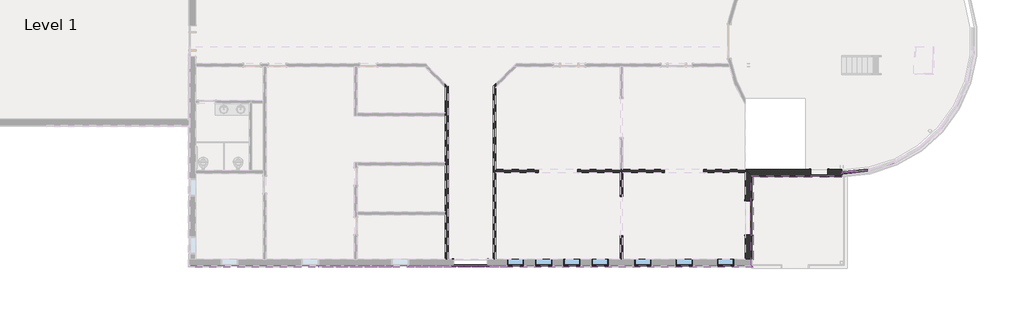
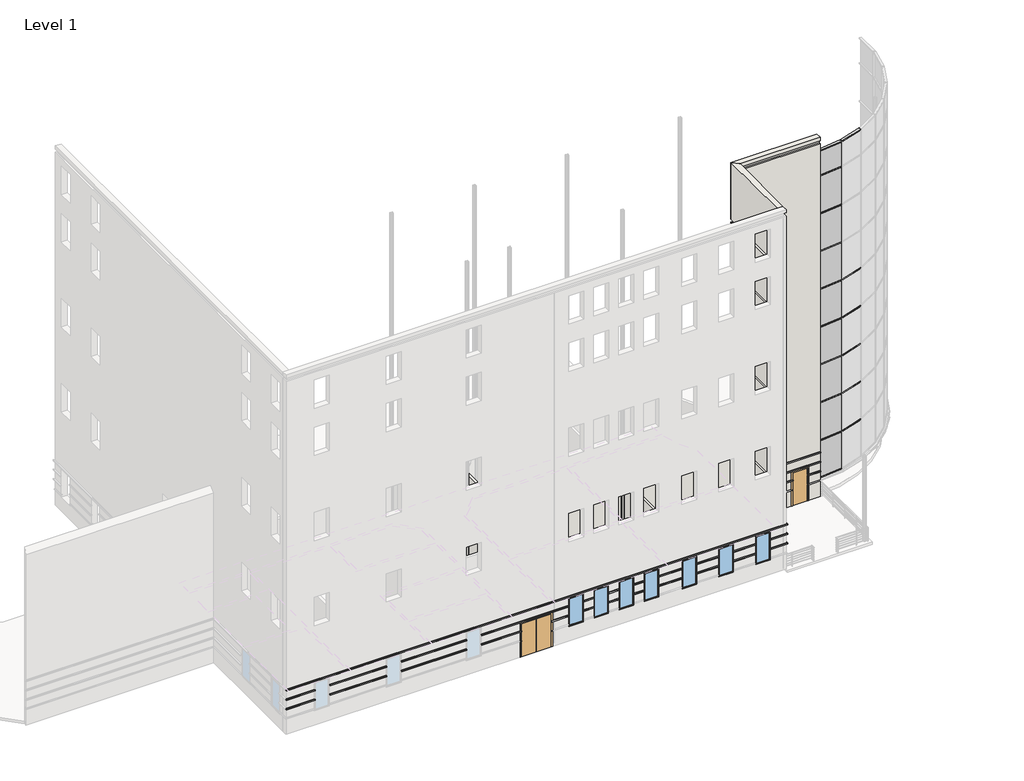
# One storey, part 3 of 16: 25 members, 9 plates, 9 proxies, 7 windows, 6 walls, 3 doors.
"""IFC4 building model written with IfcOpenShell, lengths in millimetres."""

from ifc_helpers import new_model, si_unit, frame, origin, place, context, project, spatial, polyline, outline, extrude, faceted_brep, transform, mapped, element, save
from components import door_1883fffc, door_632be17d, member_ab48d357, member_45463520, member_165ff730, member_1666ebf7, member_5575938c, member_ee409385, member_4f99afef, system_panel_glazed_2e30f1c6, system_panel_glazed_6bd74036, system_panel_glazed_8bc432e9, window_9c0dbd08

model = new_model("IFC4")

# Units and contexts
model_context = context("Model", 3, world=origin())
ifc_project = project(units=[si_unit("LENGTHUNIT", "METRE", prefix="MILLI")], contexts=[model_context])

# Site, building, storey
site = spatial("IfcSite", under=ifc_project)
building = spatial("IfcBuilding", under=site)
storey = spatial("IfcBuildingStorey", under=building, Name="Level 1", Elevation=0.0)

# Proxies
placement = place(None, origin())
element("IfcBuildingElementProxy", 1, Name="Reveals", at=placement, inside=storey, context=model_context, shape_type="SweptSolid", body=[
    extrude(outline(polyline([(-18533.512755, -6737.5012891), (-18533.512755, -6829.5762891), (-20324.212755, -6829.5762891), (-20232.137755, -6737.5012891), (-18533.512755, -6737.5012891)])), frame((0.0, 0.0, 1625.6), z_axis=(0.0, 0.0, 1.0), x_axis=(1.0, 0.0, 0.0)), (0.0, 0.0, 1.0), 67.7333333),
    extrude(outline(polyline([(-14163.125255, -6737.5012891), (-14163.125255, -6829.5762891), (-17619.112755, -6829.5762891), (-17619.112755, -6737.5012891), (-14163.125255, -6737.5012891)])), frame((0.0, 0.0, 1625.6), z_axis=(0.0, 0.0, 1.0), x_axis=(1.0, 0.0, 0.0)), (0.0, 0.0, 1.0), 67.7333333),
    extrude(outline(polyline([(-9286.325255, -6737.5012891), (-9286.325255, -6829.5762891), (-13248.725255, -6829.5762891), (-13248.725255, -6737.5012891), (-9286.325255, -6737.5012891)])), frame((0.0, 0.0, 1625.6), z_axis=(0.0, 0.0, 1.0), x_axis=(1.0, 0.0, 0.0)), (0.0, 0.0, 1.0), 67.7333333),
    extrude(outline(polyline([(-5931.937755, -6737.5012891), (-5931.937755, -6829.5762891), (-8371.925255, -6829.5762891), (-8371.925255, -6737.5012891), (-5931.937755, -6737.5012891)])), frame((0.0, 0.0, 1625.6), z_axis=(0.0, 0.0, 1.0), x_axis=(1.0, 0.0, 0.0)), (0.0, 0.0, 1.0), 67.7333333),
    extrude(outline(polyline([(-3037.925255, -6737.5012891), (-3037.925255, -6829.5762891), (-4103.137755, -6829.5762891), (-4103.137755, -6737.5012891), (-3037.925255, -6737.5012891)])), frame((0.0, 0.0, 1625.6), z_axis=(0.0, 0.0, 1.0), x_axis=(1.0, 0.0, 0.0)), (0.0, 0.0, 1.0), 67.7333333),
    extrude(outline(polyline([(-1509.162755, -6737.5012891), (-1509.162755, -6829.5762891), (-2123.525255, -6829.5762891), (-2123.525255, -6737.5012891), (-1509.162755, -6737.5012891)])), frame((0.0, 0.0, 1625.6), z_axis=(0.0, 0.0, 1.0), x_axis=(1.0, 0.0, 0.0)), (0.0, 0.0, 1.0), 67.7333333),
    extrude(outline(polyline([(19.599745, -6737.5012891), (19.599745, -6829.5762891), (-594.762755, -6829.5762891), (-594.762755, -6737.5012891), (19.599745, -6737.5012891)])), frame((0.0, 0.0, 1625.6), z_axis=(0.0, 0.0, 1.0), x_axis=(1.0, 0.0, 0.0)), (0.0, 0.0, 1.0), 67.7333333),
    extrude(outline(polyline([(1548.362245, -6737.5012891), (1548.362245, -6829.5762891), (933.999745, -6829.5762891), (933.999745, -6737.5012891), (1548.362245, -6737.5012891)])), frame((0.0, 0.0, 1625.6), z_axis=(0.0, 0.0, 1.0), x_axis=(1.0, 0.0, 0.0)), (0.0, 0.0, 1.0), 67.7333333),
    extrude(outline(polyline([(3864.524745, -6737.5012891), (3864.524745, -6829.5762891), (2462.762245, -6829.5762891), (2462.762245, -6737.5012891), (3864.524745, -6737.5012891)])), frame((0.0, 0.0, 1625.6), z_axis=(0.0, 0.0, 1.0), x_axis=(1.0, 0.0, 0.0)), (0.0, 0.0, 1.0), 67.7333333),
    extrude(outline(polyline([(6105.280995, -6737.5012891), (6105.280995, -6829.5762891), (4778.924745, -6829.5762891), (4778.924745, -6737.5012891), (6105.280995, -6737.5012891)])), frame((0.0, 0.0, 1625.6), z_axis=(0.0, 0.0, 1.0), x_axis=(1.0, 0.0, 0.0)), (0.0, 0.0, 1.0), 67.7333333),
    extrude(outline(polyline([(8346.037245, -6737.5012891), (8346.037245, -6829.5762891), (7019.680995, -6829.5762891), (7019.680995, -6737.5012891), (8346.037245, -6737.5012891)])), frame((0.0, 0.0, 1625.6), z_axis=(0.0, 0.0, 1.0), x_axis=(1.0, 0.0, 0.0)), (0.0, 0.0, 1.0), 67.7333333),
    extrude(outline(polyline([(10197.062245, -6737.5012891), (10289.137245, -6829.5762891), (9260.437245, -6829.5762891), (9260.437245, -6737.5012891), (10197.062245, -6737.5012891)])), frame((0.0, 0.0, 1625.6), z_axis=(0.0, 0.0, 1.0), x_axis=(1.0, 0.0, 0.0)), (0.0, 0.0, 1.0), 67.7333333),
])
element("IfcBuildingElementProxy", 2, Name="Reveals", at=placement, inside=storey, context=model_context, shape_type="SweptSolid", body=[
    extrude(outline(polyline([(-18533.512755, -6737.5012891), (-18533.512755, -6829.5762891), (-20324.212755, -6829.5762891), (-20232.137755, -6737.5012891), (-18533.512755, -6737.5012891)])), frame((0.0, 0.0, 2235.2), z_axis=(0.0, 0.0, 1.0), x_axis=(1.0, 0.0, 0.0)), (0.0, 0.0, 1.0), 67.7333333),
    extrude(outline(polyline([(-14163.125255, -6737.5012891), (-14163.125255, -6829.5762891), (-17619.112755, -6829.5762891), (-17619.112755, -6737.5012891), (-14163.125255, -6737.5012891)])), frame((0.0, 0.0, 2235.2), z_axis=(0.0, 0.0, 1.0), x_axis=(1.0, 0.0, 0.0)), (0.0, 0.0, 1.0), 67.7333333),
    extrude(outline(polyline([(-9286.325255, -6737.5012891), (-9286.325255, -6829.5762891), (-13248.725255, -6829.5762891), (-13248.725255, -6737.5012891), (-9286.325255, -6737.5012891)])), frame((0.0, 0.0, 2235.2), z_axis=(0.0, 0.0, 1.0), x_axis=(1.0, 0.0, 0.0)), (0.0, 0.0, 1.0), 67.7333333),
    extrude(outline(polyline([(-3037.925255, -6737.5012891), (-3037.925255, -6829.5762891), (-8371.925255, -6829.5762891), (-8371.925255, -6737.5012891), (-3037.925255, -6737.5012891)])), frame((0.0, 0.0, 2235.2), z_axis=(0.0, 0.0, 1.0), x_axis=(1.0, 0.0, 0.0)), (0.0, 0.0, 1.0), 67.7333333),
    extrude(outline(polyline([(-1509.162755, -6737.5012891), (-1509.162755, -6829.5762891), (-2123.525255, -6829.5762891), (-2123.525255, -6737.5012891), (-1509.162755, -6737.5012891)])), frame((0.0, 0.0, 2235.2), z_axis=(0.0, 0.0, 1.0), x_axis=(1.0, 0.0, 0.0)), (0.0, 0.0, 1.0), 67.7333333),
    extrude(outline(polyline([(19.599745, -6737.5012891), (19.599745, -6829.5762891), (-594.762755, -6829.5762891), (-594.762755, -6737.5012891), (19.599745, -6737.5012891)])), frame((0.0, 0.0, 2235.2), z_axis=(0.0, 0.0, 1.0), x_axis=(1.0, 0.0, 0.0)), (0.0, 0.0, 1.0), 67.7333333),
    extrude(outline(polyline([(1548.362245, -6737.5012891), (1548.362245, -6829.5762891), (933.999745, -6829.5762891), (933.999745, -6737.5012891), (1548.362245, -6737.5012891)])), frame((0.0, 0.0, 2235.2), z_axis=(0.0, 0.0, 1.0), x_axis=(1.0, 0.0, 0.0)), (0.0, 0.0, 1.0), 67.7333333),
    extrude(outline(polyline([(3864.524745, -6737.5012891), (3864.524745, -6829.5762891), (2462.762245, -6829.5762891), (2462.762245, -6737.5012891), (3864.524745, -6737.5012891)])), frame((0.0, 0.0, 2235.2), z_axis=(0.0, 0.0, 1.0), x_axis=(1.0, 0.0, 0.0)), (0.0, 0.0, 1.0), 67.7333333),
    extrude(outline(polyline([(6105.280995, -6737.5012891), (6105.280995, -6829.5762891), (4778.924745, -6829.5762891), (4778.924745, -6737.5012891), (6105.280995, -6737.5012891)])), frame((0.0, 0.0, 2235.2), z_axis=(0.0, 0.0, 1.0), x_axis=(1.0, 0.0, 0.0)), (0.0, 0.0, 1.0), 67.7333333),
    extrude(outline(polyline([(8346.037245, -6737.5012891), (8346.037245, -6829.5762891), (7019.680995, -6829.5762891), (7019.680995, -6737.5012891), (8346.037245, -6737.5012891)])), frame((0.0, 0.0, 2235.2), z_axis=(0.0, 0.0, 1.0), x_axis=(1.0, 0.0, 0.0)), (0.0, 0.0, 1.0), 67.7333333),
    extrude(outline(polyline([(10197.062245, -6737.5012891), (10289.137245, -6829.5762891), (9260.437245, -6829.5762891), (9260.437245, -6737.5012891), (10197.062245, -6737.5012891)])), frame((0.0, 0.0, 2235.2), z_axis=(0.0, 0.0, 1.0), x_axis=(1.0, 0.0, 0.0)), (0.0, 0.0, 1.0), 67.7333333),
])
element("IfcBuildingElementProxy", 3, Name="Reveals", at=placement, inside=storey, context=model_context, shape_type="SweptSolid", body=[
    extrude(outline(polyline([(10197.062245, -6737.5012891), (10289.137245, -6829.5762891), (-20324.212755, -6829.5762891), (-20232.137755, -6737.5012891), (10197.062245, -6737.5012891)])), frame((0.0, 0.0, 2844.8), z_axis=(0.0, 0.0, 1.0), x_axis=(1.0, 0.0, 0.0)), (0.0, 0.0, 1.0), 67.7333333),
])
element("IfcBuildingElementProxy", 4, Name="Reveals", at=placement, inside=storey, context=model_context, shape_type="SweptSolid", body=[
    extrude(outline(polyline([(10289.137245, -6829.5762891), (10197.062245, -6737.5012891), (10197.062245, -5062.6887891), (10289.137245, -5062.6887891), (10289.137245, -6829.5762891)])), frame((0.0, 0.0, 1625.6), z_axis=(0.0, 0.0, 1.0), x_axis=(1.0, 0.0, 0.0)), (0.0, 0.0, 1.0), 67.7333333),
    extrude(outline(polyline([(10289.137245, -3233.8887891), (10197.062245, -3233.8887891), (10197.062245, -1860.7012891), (10289.137245, -1952.7762891), (10289.137245, -3233.8887891)])), frame((0.0, 0.0, 1625.6), z_axis=(0.0, 0.0, 1.0), x_axis=(1.0, 0.0, 0.0)), (0.0, 0.0, 1.0), 67.7333333),
])
element("IfcBuildingElementProxy", 5, Name="Reveals", at=placement, inside=storey, context=model_context, shape_type="SweptSolid", body=[
    extrude(outline(polyline([(10289.137245, -6829.5762891), (10197.062245, -6737.5012891), (10197.062245, -1860.7012891), (10289.137245, -1952.7762891), (10289.137245, -6829.5762891)])), frame((0.0, 0.0, 2235.2), z_axis=(0.0, 0.0, 1.0), x_axis=(1.0, 0.0, 0.0)), (0.0, 0.0, 1.0), 67.7333333),
])
element("IfcBuildingElementProxy", 6, Name="Reveals", at=placement, inside=storey, context=model_context, shape_type="SweptSolid", body=[
    extrude(outline(polyline([(10289.137245, -6829.5762891), (10197.062245, -6737.5012891), (10197.062245, -1860.7012891), (10289.137245, -1952.7762891), (10289.137245, -6829.5762891)])), frame((0.0, 0.0, 2844.8), z_axis=(0.0, 0.0, 1.0), x_axis=(1.0, 0.0, 0.0)), (0.0, 0.0, 1.0), 67.7333333),
])
element("IfcBuildingElementProxy", 7, Name="Reveals", at=placement, inside=storey, context=model_context, shape_type="SweptSolid", body=[
    extrude(outline(polyline([(10289.137245, -1952.7762891), (10197.062245, -1860.7012891), (13416.512245, -1860.7012891), (13416.512245, -1952.7762891), (10289.137245, -1952.7762891)])), frame((0.0, 0.0, 1625.6), z_axis=(0.0, 0.0, 1.0), x_axis=(1.0, 0.0, 0.0)), (0.0, 0.0, 1.0), 67.7333333),
    extrude(outline(polyline([(14330.912245, -1952.7762891), (14330.912245, -1860.7012891), (15099.262245, -1860.7012891), (15099.262245, -1952.7762891), (14330.912245, -1952.7762891)])), frame((0.0, 0.0, 1625.6), z_axis=(0.0, 0.0, 1.0), x_axis=(1.0, 0.0, 0.0)), (0.0, 0.0, 1.0), 67.7333333),
])
element("IfcBuildingElementProxy", 8, Name="Reveals", at=placement, inside=storey, context=model_context, shape_type="SweptSolid", body=[
    extrude(outline(polyline([(10289.137245, -1952.7762891), (10197.062245, -1860.7012891), (15099.262245, -1860.7012891), (15099.262245, -1952.7762891), (10289.137245, -1952.7762891)])), frame((0.0, 0.0, 2235.2), z_axis=(0.0, 0.0, 1.0), x_axis=(1.0, 0.0, 0.0)), (0.0, 0.0, 1.0), 67.7333333),
])
element("IfcBuildingElementProxy", 9, Name="Reveals", at=placement, inside=storey, context=model_context, shape_type="SweptSolid", body=[
    extrude(outline(polyline([(10289.137245, -1952.7762891), (10197.062245, -1860.7012891), (15099.262245, -1860.7012891), (15099.262245, -1952.7762891), (10289.137245, -1952.7762891)])), frame((0.0, 0.0, 2844.8), z_axis=(0.0, 0.0, 1.0), x_axis=(1.0, 0.0, 0.0)), (0.0, 0.0, 1.0), 67.7333333),
])

# Doors
door_shape = door_1883fffc(model_context)
element("IfcDoor", 10, ObjectType="Double-Flush : 72\" x 84\"", at=placement, inside=storey, context=model_context, shape_type="MappedRepresentation", body=[
    mapped(door_shape, transform((10046.249745, -4148.2887891, 0.0), x_axis=(0.0, -1.0, 0.0), y_axis=(1.0, 0.0, 0.0), z_axis=(0.0, 0.0, 1.0))),
])
element("IfcDoor", 11, ObjectType="Double-Flush : 72\" x 84\"", at=placement, inside=storey, context=model_context, shape_type="MappedRepresentation", body=[
    mapped(door_shape, transform((-5017.537755, -6586.6887891, 0.0), x_axis=(-1.0, 0.0, 0.0), y_axis=(0.0, -1.0, 0.0), z_axis=(0.0, 0.0, 1.0))),
])
door_2_shape = door_632be17d(model_context)
element("IfcDoor", 12, ObjectType="Single-Flush : 36\" x 84\"", at=placement, inside=storey, context=model_context, shape_type="MappedRepresentation", body=[
    mapped(door_2_shape, transform((13873.712245, -1709.8887891, 0.0), x_axis=(-1.0, 0.0, 0.0), y_axis=(0.0, -1.0, 0.0), z_axis=(0.0, 0.0, 1.0))),
])

# Members
member_shape = member_ab48d357(model_context)
element("IfcMember", 13, ObjectType="Rectangular Mullion : 2.5\" x 5\" rectangular", at=placement, inside=storey, context=model_context, shape_type="MappedRepresentation", body=[
    mapped(member_shape, transform((15162.4143854, -1703.2512317, 22250.4), x_axis=(0.0, 0.0, 1.0), y_axis=(-0.1045284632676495, 0.9945218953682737, 0.0), z_axis=(-0.9945218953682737, -0.1045284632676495, 0.0))),
])
member_2_shape = member_45463520(model_context)
element("IfcMember", 14, ObjectType="Rectangular Mullion : 2.5\" x 5\" rectangular", at=placement, inside=storey, context=model_context, shape_type="MappedRepresentation", body=[
    mapped(member_2_shape, transform((16613.7372513, -1544.0734943, 22250.4), x_axis=(0.0, 0.0, 1.0), y_axis=(-0.30901699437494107, 0.9510565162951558, 0.0), z_axis=(-0.9510565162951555, -0.309016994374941, 0.0))),
])
member_3_shape = member_165ff730(model_context)
element("IfcMember", 15, ObjectType="Rectangular Mullion : 2.5\" x 5\" rectangular", at=placement, inside=storey, context=model_context, shape_type="MappedRepresentation", body=[
    mapped(member_3_shape, transform((16551.9651367, -1557.2035626, 1092.2), x_axis=(0.0, 0.0, -1.0), y_axis=(-0.1045284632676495, 0.9945218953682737, 0.0), z_axis=(0.9945218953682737, 0.1045284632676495, 0.0))),
])
member_4_shape = member_1666ebf7(model_context)
element("IfcMember", 16, ObjectType="Rectangular Mullion : 2.5\" x 5\" rectangular", at=placement, inside=storey, context=model_context, shape_type="MappedRepresentation", body=[
    mapped(member_4_shape, transform((16613.7372513, -1544.0734943, 3530.6), x_axis=(0.0, 0.0, 1.0), y_axis=(-0.30901699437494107, 0.9510565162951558, 0.0), z_axis=(-0.9510565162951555, -0.309016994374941, 0.0))),
])
element("IfcMember", 17, ObjectType="Rectangular Mullion : 2.5\" x 5\" rectangular", at=placement, inside=storey, context=model_context, shape_type="MappedRepresentation", body=[
    mapped(member_4_shape, transform((16613.7372513, -1544.0734943, 5969.0), x_axis=(0.0, 0.0, 1.0), y_axis=(-0.30901699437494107, 0.9510565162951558, 0.0), z_axis=(-0.9510565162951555, -0.309016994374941, 0.0))),
])
element("IfcMember", 18, ObjectType="Rectangular Mullion : 2.5\" x 5\" rectangular", at=placement, inside=storey, context=model_context, shape_type="MappedRepresentation", body=[
    mapped(member_4_shape, transform((16613.7372513, -1544.0734943, 8407.4), x_axis=(0.0, 0.0, 1.0), y_axis=(-0.30901699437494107, 0.9510565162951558, 0.0), z_axis=(-0.9510565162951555, -0.309016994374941, 0.0))),
])
element("IfcMember", 19, ObjectType="Rectangular Mullion : 2.5\" x 5\" rectangular", at=placement, inside=storey, context=model_context, shape_type="MappedRepresentation", body=[
    mapped(member_4_shape, transform((16613.7372513, -1544.0734943, 10845.8), x_axis=(0.0, 0.0, 1.0), y_axis=(-0.30901699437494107, 0.9510565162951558, 0.0), z_axis=(-0.9510565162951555, -0.309016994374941, 0.0))),
])
element("IfcMember", 20, ObjectType="Rectangular Mullion : 2.5\" x 5\" rectangular", at=placement, inside=storey, context=model_context, shape_type="MappedRepresentation", body=[
    mapped(member_4_shape, transform((16613.7372513, -1544.0734943, 13284.2), x_axis=(0.0, 0.0, 1.0), y_axis=(-0.30901699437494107, 0.9510565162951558, 0.0), z_axis=(-0.9510565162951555, -0.309016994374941, 0.0))),
])
member_5_shape = member_5575938c(model_context)
element("IfcMember", 21, ObjectType="Rectangular Mullion : 2.5\" x 5\" rectangular", at=placement, inside=storey, context=model_context, shape_type="MappedRepresentation", body=[
    mapped(member_5_shape, transform((15162.4143854, -1703.2512317, 3530.6), x_axis=(0.0, 0.0, 1.0), y_axis=(-0.10452846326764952, 0.9945218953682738, 0.0), z_axis=(-0.9945218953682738, -0.10452846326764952, 0.0))),
])
element("IfcMember", 22, ObjectType="Rectangular Mullion : 2.5\" x 5\" rectangular", at=placement, inside=storey, context=model_context, shape_type="MappedRepresentation", body=[
    mapped(member_5_shape, transform((15162.4143854, -1703.2512317, 5969.0), x_axis=(0.0, 0.0, 1.0), y_axis=(-0.10452846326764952, 0.9945218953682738, 0.0), z_axis=(-0.9945218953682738, -0.10452846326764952, 0.0))),
])
element("IfcMember", 23, ObjectType="Rectangular Mullion : 2.5\" x 5\" rectangular", at=placement, inside=storey, context=model_context, shape_type="MappedRepresentation", body=[
    mapped(member_5_shape, transform((15162.4143854, -1703.2512317, 8407.4), x_axis=(0.0, 0.0, 1.0), y_axis=(-0.10452846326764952, 0.9945218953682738, 0.0), z_axis=(-0.9945218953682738, -0.10452846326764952, 0.0))),
])
element("IfcMember", 24, ObjectType="Rectangular Mullion : 2.5\" x 5\" rectangular", at=placement, inside=storey, context=model_context, shape_type="MappedRepresentation", body=[
    mapped(member_5_shape, transform((15162.4143854, -1703.2512317, 10845.8), x_axis=(0.0, 0.0, 1.0), y_axis=(-0.10452846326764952, 0.9945218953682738, 0.0), z_axis=(-0.9945218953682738, -0.10452846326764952, 0.0))),
])
element("IfcMember", 25, ObjectType="Rectangular Mullion : 2.5\" x 5\" rectangular", at=placement, inside=storey, context=model_context, shape_type="MappedRepresentation", body=[
    mapped(member_5_shape, transform((15162.4143854, -1703.2512317, 13284.2), x_axis=(0.0, 0.0, 1.0), y_axis=(-0.10452846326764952, 0.9945218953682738, 0.0), z_axis=(-0.9945218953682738, -0.10452846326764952, 0.0))),
])
element("IfcMember", 26, ObjectType="Rectangular Mullion : 2.5\" x 5\" rectangular", at=placement, inside=storey, context=model_context, shape_type="MappedRepresentation", body=[
    mapped(member_5_shape, transform((15162.4143854, -1703.2512317, 15722.6), x_axis=(0.0, 0.0, 1.0), y_axis=(-0.10452846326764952, 0.9945218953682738, 0.0), z_axis=(-0.9945218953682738, -0.10452846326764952, 0.0))),
])
element("IfcMember", 27, ObjectType="Rectangular Mullion : 2.5\" x 5\" rectangular", at=placement, inside=storey, context=model_context, shape_type="MappedRepresentation", body=[
    mapped(member_5_shape, transform((15162.4143854, -1703.2512317, 18161.0), x_axis=(0.0, 0.0, 1.0), y_axis=(-0.10452846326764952, 0.9945218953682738, 0.0), z_axis=(-0.9945218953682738, -0.10452846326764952, 0.0))),
])
element("IfcMember", 28, ObjectType="Rectangular Mullion : 2.5\" x 5\" rectangular", at=placement, inside=storey, context=model_context, shape_type="MappedRepresentation", body=[
    mapped(member_5_shape, transform((15162.4143854, -1703.2512317, 20599.4), x_axis=(0.0, 0.0, 1.0), y_axis=(-0.10452846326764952, 0.9945218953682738, 0.0), z_axis=(-0.9945218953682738, -0.10452846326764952, 0.0))),
])
member_6_shape = member_ee409385(model_context)
element("IfcMember", 29, ObjectType="Rectangular Mullion : 2.5\" x 5\" rectangular", at=placement, inside=storey, context=model_context, shape_type="MappedRepresentation", body=[
    mapped(member_6_shape, transform((15099.262245, -1709.8887891, 1092.2), x_axis=(-0.9945218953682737, -0.10452846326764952, 0.0), y_axis=(-0.10452846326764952, 0.9945218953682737, 0.0), z_axis=(0.0, 0.0, -1.0))),
])
element("IfcMember", 30, ObjectType="Rectangular Mullion : 2.5\" x 5\" rectangular", at=placement, inside=storey, context=model_context, shape_type="MappedRepresentation", body=[
    mapped(member_6_shape, transform((15099.262245, -1709.8887891, 3530.6), x_axis=(-0.9945218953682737, -0.1045284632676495, 0.0), y_axis=(-0.1045284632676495, 0.9945218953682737, 0.0), z_axis=(0.0, 0.0, -1.0))),
])
element("IfcMember", 31, ObjectType="Rectangular Mullion : 2.5\" x 5\" rectangular", at=placement, inside=storey, context=model_context, shape_type="MappedRepresentation", body=[
    mapped(member_6_shape, transform((15099.262245, -1709.8887891, 5969.0), x_axis=(-0.9945218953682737, -0.1045284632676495, 0.0), y_axis=(-0.1045284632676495, 0.9945218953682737, 0.0), z_axis=(0.0, 0.0, -1.0))),
])
element("IfcMember", 32, ObjectType="Rectangular Mullion : 2.5\" x 5\" rectangular", at=placement, inside=storey, context=model_context, shape_type="MappedRepresentation", body=[
    mapped(member_6_shape, transform((15099.262245, -1709.8887891, 8407.4), x_axis=(-0.9945218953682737, -0.1045284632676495, 0.0), y_axis=(-0.1045284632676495, 0.9945218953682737, 0.0), z_axis=(0.0, 0.0, -1.0))),
])
element("IfcMember", 33, ObjectType="Rectangular Mullion : 2.5\" x 5\" rectangular", at=placement, inside=storey, context=model_context, shape_type="MappedRepresentation", body=[
    mapped(member_6_shape, transform((15099.262245, -1709.8887891, 10845.8), x_axis=(-0.9945218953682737, -0.1045284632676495, 0.0), y_axis=(-0.1045284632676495, 0.9945218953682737, 0.0), z_axis=(0.0, 0.0, -1.0))),
])
element("IfcMember", 34, ObjectType="Rectangular Mullion : 2.5\" x 5\" rectangular", at=placement, inside=storey, context=model_context, shape_type="MappedRepresentation", body=[
    mapped(member_6_shape, transform((15099.262245, -1709.8887891, 13284.2), x_axis=(-0.9945218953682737, -0.1045284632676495, 0.0), y_axis=(-0.1045284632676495, 0.9945218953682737, 0.0), z_axis=(0.0, 0.0, -1.0))),
])
element("IfcMember", 35, ObjectType="Rectangular Mullion : 2.5\" x 5\" rectangular", at=placement, inside=storey, context=model_context, shape_type="MappedRepresentation", body=[
    mapped(member_6_shape, transform((15099.262245, -1709.8887891, 15722.6), x_axis=(-0.9945218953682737, -0.1045284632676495, 0.0), y_axis=(-0.1045284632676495, 0.9945218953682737, 0.0), z_axis=(0.0, 0.0, -1.0))),
])
element("IfcMember", 36, ObjectType="Rectangular Mullion : 2.5\" x 5\" rectangular", at=placement, inside=storey, context=model_context, shape_type="MappedRepresentation", body=[
    mapped(member_6_shape, transform((15099.262245, -1709.8887891, 18161.0), x_axis=(-0.9945218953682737, -0.1045284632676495, 0.0), y_axis=(-0.1045284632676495, 0.9945218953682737, 0.0), z_axis=(0.0, 0.0, -1.0))),
])
member_7_shape = member_4f99afef(model_context)
element("IfcMember", 37, ObjectType="Rectangular Mullion : 2.5\" x 5\" rectangular", at=placement, inside=storey, context=model_context, shape_type="MappedRepresentation", body=[
    mapped(member_7_shape, transform((15099.262245, -1709.8887891, 20599.4), x_axis=(-0.9945218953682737, -0.1045284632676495, 0.0), y_axis=(-0.1045284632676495, 0.9945218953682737, 0.0), z_axis=(0.0, 0.0, -1.0))),
])

# Plates
system_panel_glazed_shape = system_panel_glazed_2e30f1c6(model_context)
element("IfcPlate", 38, ObjectType="System Panel : Glazed", at=placement, inside=storey, context=model_context, shape_type="MappedRepresentation", body=[
    mapped(system_panel_glazed_shape, transform((15857.189761, -1630.2273971, 1155.7), x_axis=(-0.9945218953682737, -0.10452846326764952, 0.0), y_axis=(0.10452846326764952, -0.9945218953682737, 0.0), z_axis=(0.0, 0.0, 1.0))),
])
system_panel_glazed_2_shape = system_panel_glazed_6bd74036(model_context)
element("IfcPlate", 39, ObjectType="System Panel : Glazed", at=placement, inside=storey, context=model_context, shape_type="MappedRepresentation", body=[
    mapped(system_panel_glazed_2_shape, transform((15857.189761, -1630.2273971, 3562.35), x_axis=(-0.9945218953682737, -0.1045284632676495, 0.0), y_axis=(0.1045284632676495, -0.9945218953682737, 0.0), z_axis=(0.0, 0.0, 1.0))),
])
element("IfcPlate", 40, ObjectType="System Panel : Glazed", at=placement, inside=storey, context=model_context, shape_type="MappedRepresentation", body=[
    mapped(system_panel_glazed_2_shape, transform((15857.189761, -1630.2273971, 6000.75), x_axis=(-0.9945218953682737, -0.1045284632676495, 0.0), y_axis=(0.1045284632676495, -0.9945218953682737, 0.0), z_axis=(0.0, 0.0, 1.0))),
])
element("IfcPlate", 41, ObjectType="System Panel : Glazed", at=placement, inside=storey, context=model_context, shape_type="MappedRepresentation", body=[
    mapped(system_panel_glazed_2_shape, transform((15857.189761, -1630.2273971, 8439.15), x_axis=(-0.9945218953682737, -0.1045284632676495, 0.0), y_axis=(0.1045284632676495, -0.9945218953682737, 0.0), z_axis=(0.0, 0.0, 1.0))),
])
element("IfcPlate", 42, ObjectType="System Panel : Glazed", at=placement, inside=storey, context=model_context, shape_type="MappedRepresentation", body=[
    mapped(system_panel_glazed_2_shape, transform((15857.189761, -1630.2273971, 10877.55), x_axis=(-0.9945218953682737, -0.1045284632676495, 0.0), y_axis=(0.1045284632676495, -0.9945218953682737, 0.0), z_axis=(0.0, 0.0, 1.0))),
])
element("IfcPlate", 43, ObjectType="System Panel : Glazed", at=placement, inside=storey, context=model_context, shape_type="MappedRepresentation", body=[
    mapped(system_panel_glazed_2_shape, transform((15857.189761, -1630.2273971, 13315.95), x_axis=(-0.9945218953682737, -0.1045284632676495, 0.0), y_axis=(0.1045284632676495, -0.9945218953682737, 0.0), z_axis=(0.0, 0.0, 1.0))),
])
element("IfcPlate", 44, ObjectType="System Panel : Glazed", at=placement, inside=storey, context=model_context, shape_type="MappedRepresentation", body=[
    mapped(system_panel_glazed_2_shape, transform((15857.189761, -1630.2273971, 15754.35), x_axis=(-0.9945218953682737, -0.1045284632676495, 0.0), y_axis=(0.1045284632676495, -0.9945218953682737, 0.0), z_axis=(0.0, 0.0, 1.0))),
])
element("IfcPlate", 45, ObjectType="System Panel : Glazed", at=placement, inside=storey, context=model_context, shape_type="MappedRepresentation", body=[
    mapped(system_panel_glazed_2_shape, transform((15857.189761, -1630.2273971, 18192.75), x_axis=(-0.9945218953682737, -0.1045284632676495, 0.0), y_axis=(0.1045284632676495, -0.9945218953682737, 0.0), z_axis=(0.0, 0.0, 1.0))),
])
system_panel_glazed_3_shape = system_panel_glazed_8bc432e9(model_context)
element("IfcPlate", 46, ObjectType="System Panel : Glazed", at=placement, inside=storey, context=model_context, shape_type="MappedRepresentation", body=[
    mapped(system_panel_glazed_3_shape, transform((15857.189761, -1630.2273971, 20631.15), x_axis=(-0.9945218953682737, -0.1045284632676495, 0.0), y_axis=(0.1045284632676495, -0.9945218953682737, 0.0), z_axis=(0.0, 0.0, 1.0))),
])

# Walls
element("IfcWall", 47, ObjectType="Exterior - Brick and CMU on MTL. Stud", at=placement, inside=storey, context=model_context, shape_type="Brep", body=[
    faceted_brep([(10222.462245, -1886.1012891, 23164.8), (10222.462245, -6410.4762891, 23164.8), (10222.462245, -6410.4762891, 22961.6), (10222.462245, -1886.1012891, 22961.6), (10222.462245, -6410.4762891, 2302.9333333), (10222.462245, -1886.1012891, 2302.9333333), (10222.462245, -1886.1012891, 2844.8), (10222.462245, -6410.4762891, 2844.8), (10222.462245, -1886.1012891, 2235.2), (10222.462245, -6410.4762891, 2235.2), (10222.462245, -6410.4762891, 1693.3333333), (10222.462245, -5062.6887891, 1693.3333333), (10222.462245, -5062.6887891, 2133.6), (10222.462245, -3233.8887891, 2133.6), (10222.462245, -3233.8887891, 1693.3333333), (10222.462245, -1886.1012891, 1693.3333333), (10222.462245, -6410.4762891, 2912.5333333), (10222.462245, -1886.1012891, 2912.5333333), (10222.462245, -1886.1012891, 22758.4), (10222.462245, -6410.4762891, 22758.4), (10222.462245, -6410.4762891, 0.0), (10222.462245, -5062.6887891, 0.0), (10222.462245, -5062.6887891, 1016.0), (10222.462245, -6410.4762891, 1016.0), (10222.462245, -3233.8887891, 0.0), (10222.462245, -1886.1012891, 0.0), (10222.462245, -1886.1012891, 1016.0), (10222.462245, -3233.8887891, 1016.0), (10222.462245, -1886.1012891, 1625.6), (10222.462245, -3233.8887891, 1625.6), (10222.462245, -3233.8887891, 1085.85), (10222.462245, -1886.1012891, 1085.85), (10222.462245, -5062.6887891, 1625.6), (10222.462245, -6410.4762891, 1625.6), (10222.462245, -6410.4762891, 1085.85), (10222.462245, -5062.6887891, 1085.85), (9870.037245, -6410.4762891, 23164.8), (9870.037245, -1533.6762891, 23164.8), (9870.037245, -1533.6762891, 19507.2), (9870.037245, -6410.4762891, 19507.2), (9870.037245, -5062.6887891, 0.0), (9870.037245, -6410.4762891, 0.0), (9870.037245, -6410.4762891, 5308.6), (9870.037245, -1689.2512891, 5308.6), (9870.037245, -1533.6762891, 5308.6), (9870.037245, -1533.6762891, 0.0), (9870.037245, -1689.2512891, 0.0), (9870.037245, -3233.8887891, 0.0), (9870.037245, -3233.8887891, 2133.6), (9870.037245, -5062.6887891, 2133.6), (9870.037245, -6410.4762891, 19329.4), (9870.037245, -1533.6762891, 19329.4), (9870.037245, -1533.6762891, 16459.2), (9870.037245, -6410.4762891, 16459.2), (9870.037245, -6410.4762891, 16281.4), (9870.037245, -1533.6762891, 16281.4), (9870.037245, -1533.6762891, 10972.8), (9870.037245, -6410.4762891, 10972.8), (9870.037245, -1533.6762891, 5486.4), (9870.037245, -6410.4762891, 5486.4), (9870.037245, -6410.4762891, 10795.0), (9870.037245, -1533.6762891, 10795.0), (10130.387245, -6410.4762891, 0.0), (10130.387245, -5062.6887891, 0.0), (10130.387245, -1794.0262891, 0.0), (10130.387245, -3233.8887891, 0.0), (10197.062245, -5062.6887891, 1693.3333333), (10197.062245, -6410.4762891, 1693.3333333), (10197.062245, -6410.4762891, 1625.6), (10197.062245, -5062.6887891, 1625.6), (10197.062245, -1860.7012891, 2302.9333333), (10197.062245, -6410.4762891, 2302.9333333), (10197.062245, -6410.4762891, 2235.2), (10197.062245, -1860.7012891, 2235.2), (10197.062245, -1860.7012891, 2912.5333333), (10197.062245, -6410.4762891, 2912.5333333), (10197.062245, -6410.4762891, 2844.8), (10197.062245, -1860.7012891, 2844.8), (10130.387245, -5062.6887891, 1085.85), (10130.387245, -6410.4762891, 1085.85), (10130.387245, -6410.4762891, 1016.0), (10130.387245, -5062.6887891, 1016.0), (10130.387245, -1794.0262891, 22961.6), (10130.387245, -6410.4762891, 22961.6), (10130.387245, -6410.4762891, 22758.4), (10130.387245, -1794.0262891, 22758.4), (10035.137245, -6410.4762891, 19507.2), (10035.137245, -6410.4762891, 19329.4), (10035.137245, -6410.4762891, 16459.2), (10035.137245, -6410.4762891, 16281.4), (10035.137245, -6410.4762891, 10972.8), (10035.137245, -6410.4762891, 10795.0), (10035.137245, -6410.4762891, 5486.4), (10035.137245, -6410.4762891, 5308.6), (10130.387245, -3233.8887891, 1016.0), (10130.387245, -3233.8887891, 1085.85), (10197.062245, -3233.8887891, 1625.6), (10197.062245, -3233.8887891, 1693.3333333), (10197.062245, -1860.7012891, 1693.3333333), (10197.062245, -1860.7012891, 1625.6), (10130.387245, -1794.0262891, 1085.85), (10130.387245, -1794.0262891, 1016.0), (10035.137245, -1698.7762891, 5308.6), (10035.137245, -1698.7762891, 5486.4), (10035.137245, -1698.7762891, 19329.4), (10035.137245, -1698.7762891, 19507.2), (10035.137245, -1698.7762891, 16281.4), (10035.137245, -1698.7762891, 16459.2), (10035.137245, -1698.7762891, 10795.0), (10035.137245, -1698.7762891, 10972.8)], [[[0, 1, 2, 3]], [[4, 5, 6, 7]], [[8, 9, 10, 11, 12, 13, 14, 15]], [[16, 17, 18, 19]], [[20, 21, 22, 23]], [[24, 25, 26, 27]], [[28, 29, 30, 31]], [[32, 33, 34, 35]], [[36, 37, 38, 39]], [[40, 41, 42, 43, 44, 45, 46, 47, 48, 49]], [[50, 51, 52, 53]], [[54, 55, 56, 57]], [[58, 59, 60, 61]], [[1, 0, 37, 36]], [[62, 41, 40, 63]], [[45, 64, 65, 47, 46]], [[66, 67, 68, 69]], [[70, 71, 72, 73]], [[74, 75, 76, 77]], [[78, 79, 80, 81]], [[82, 83, 84, 85]], [[71, 70, 5, 4]], [[73, 72, 9, 8]], [[75, 74, 17, 16]], [[77, 76, 7, 6]], [[85, 84, 19, 18]], [[83, 82, 3, 2]], [[20, 62, 63, 21]], [[64, 25, 24, 65]], [[1, 36, 39, 86, 87, 50, 53, 88, 89, 54, 57, 90, 91, 60, 59, 92, 93, 42, 41, 62, 20, 23, 80, 79, 34, 33, 68, 67, 10, 9, 72, 71, 4, 7, 76, 75, 16, 19, 84, 83, 2]], [[49, 12, 11, 66, 69, 32, 35, 78, 81, 22, 21, 63, 40]], [[12, 49, 48, 13]], [[13, 48, 47, 65, 24, 27, 94, 95, 30, 29, 96, 97, 14]], [[98, 97, 96, 99]], [[99, 96, 29, 28]], [[97, 98, 15, 14]], [[69, 68, 33, 32]], [[67, 66, 11, 10]], [[100, 95, 94, 101]], [[101, 94, 27, 26]], [[95, 100, 31, 30]], [[81, 80, 23, 22]], [[79, 78, 35, 34]], [[93, 102, 44, 43, 42]], [[102, 93, 92, 103]], [[87, 104, 51, 50]], [[105, 86, 39, 38]], [[104, 87, 86, 105]], [[89, 106, 55, 54]], [[107, 88, 53, 52]], [[106, 89, 88, 107]], [[91, 108, 61, 60]], [[109, 90, 57, 56]], [[108, 91, 90, 109]], [[103, 92, 59, 58]], [[37, 0, 3, 82, 85, 18, 17, 74, 77, 6, 5, 70, 73, 8, 15, 98, 99, 28, 31, 100, 101, 26, 25, 64, 45, 44, 102, 103, 58, 61, 108, 109, 56, 55, 106, 107, 52, 51, 104, 105, 38]]]),
])
element("IfcWall", 48, ObjectType="Exterior - Brick and CMU on MTL. Stud", at=placement, inside=storey, context=model_context, shape_type="Brep", body=[
    faceted_brep([(15099.262245, -1886.1012891, 23164.8), (10222.462245, -1886.1012891, 23164.8), (10222.462245, -1886.1012891, 22961.6), (15099.262245, -1886.1012891, 22961.6), (10222.462245, -1886.1012891, 2302.9333333), (15099.262245, -1886.1012891, 2302.9333333), (15099.262245, -1886.1012891, 2844.8), (10222.462245, -1886.1012891, 2844.8), (15099.262245, -1886.1012891, 2235.2), (10222.462245, -1886.1012891, 2235.2), (10222.462245, -1886.1012891, 1693.3333333), (13416.512245, -1886.1012891, 1693.3333333), (13416.512245, -1886.1012891, 2133.6), (14330.912245, -1886.1012891, 2133.6), (14330.912245, -1886.1012891, 1693.3333333), (15099.262245, -1886.1012891, 1693.3333333), (10222.462245, -1886.1012891, 2912.5333333), (15099.262245, -1886.1012891, 2912.5333333), (15099.262245, -1886.1012891, 22250.4), (15099.262245, -1886.1012891, 22758.4), (10222.462245, -1886.1012891, 22758.4), (10222.462245, -1886.1012891, 0.0), (13416.512245, -1886.1012891, 0.0), (13416.512245, -1886.1012891, 1016.0), (10222.462245, -1886.1012891, 1016.0), (14330.912245, -1886.1012891, 0.0), (15099.262245, -1886.1012891, 0.0), (15099.262245, -1886.1012891, 1016.0), (14330.912245, -1886.1012891, 1016.0), (15099.262245, -1886.1012891, 1625.6), (14330.912245, -1886.1012891, 1625.6), (14330.912245, -1886.1012891, 1085.85), (15099.262245, -1886.1012891, 1085.85), (15099.262245, -1886.1012891, 1092.2), (13416.512245, -1886.1012891, 1625.6), (10222.462245, -1886.1012891, 1625.6), (10222.462245, -1886.1012891, 1085.85), (13416.512245, -1886.1012891, 1085.85), (9870.037245, -1533.6762891, 23164.8), (15099.262245, -1533.6762891, 23164.8), (15099.262245, -1533.6762891, 22250.4), (15099.262245, -1533.6762891, 19507.2), (13111.712245, -1533.6762891, 19507.2), (9870.037245, -1533.6762891, 19507.2), (13416.512245, -1533.6762891, 0.0), (10063.712245, -1533.6762891, 0.0), (9870.037245, -1533.6762891, 0.0), (9870.037245, -1533.6762891, 5308.6), (13111.712245, -1533.6762891, 5308.6), (15099.262245, -1533.6762891, 5308.6), (15099.262245, -1533.6762891, 1092.2), (15099.262245, -1533.6762891, 0.0), (14330.912245, -1533.6762891, 0.0), (14330.912245, -1533.6762891, 2133.6), (13416.512245, -1533.6762891, 2133.6), (13111.712245, -1533.6762891, 19329.4), (15099.262245, -1533.6762891, 19329.4), (15099.262245, -1533.6762891, 16459.2), (13111.712245, -1533.6762891, 16459.2), (9870.037245, -1533.6762891, 16459.2), (9870.037245, -1533.6762891, 19329.4), (15099.262245, -1533.6762891, 5486.4), (13111.712245, -1533.6762891, 5486.4), (9870.037245, -1533.6762891, 5486.4), (9870.037245, -1533.6762891, 10795.0), (13111.712245, -1533.6762891, 10795.0), (15099.262245, -1533.6762891, 10795.0), (9870.037245, -1533.6762891, 16281.4), (13111.712245, -1533.6762891, 16281.4), (15099.262245, -1533.6762891, 16281.4), (15099.262245, -1533.6762891, 10972.8), (13111.712245, -1533.6762891, 10972.8), (9870.037245, -1533.6762891, 10972.8), (15099.262245, -1794.0262891, 22961.6), (15099.262245, -1794.0262891, 22758.4), (15099.262245, -1860.7012891, 2912.5333333), (15099.262245, -1860.7012891, 2844.8), (15099.262245, -1860.7012891, 2302.9333333), (15099.262245, -1860.7012891, 2235.2), (15099.262245, -1860.7012891, 1693.3333333), (15099.262245, -1860.7012891, 1625.6), (15099.262245, -1794.0262891, 1085.85), (15099.262245, -1794.0262891, 1016.0), (15099.262245, -1794.0262891, 0.0), (15099.262245, -1698.7762891, 5308.6), (15099.262245, -1698.7762891, 5486.4), (15099.262245, -1698.7762891, 10795.0), (15099.262245, -1698.7762891, 10972.8), (15099.262245, -1698.7762891, 16281.4), (15099.262245, -1698.7762891, 16459.2), (15099.262245, -1698.7762891, 19329.4), (15099.262245, -1698.7762891, 19507.2), (10130.387245, -1794.0262891, 0.0), (13416.512245, -1794.0262891, 0.0), (14330.912245, -1794.0262891, 0.0), (10197.062245, -1860.7012891, 1625.6), (13416.512245, -1860.7012891, 1625.6), (13416.512245, -1860.7012891, 1693.3333333), (10197.062245, -1860.7012891, 1693.3333333), (10197.062245, -1860.7012891, 2302.9333333), (10197.062245, -1860.7012891, 2235.2), (10197.062245, -1860.7012891, 2912.5333333), (10197.062245, -1860.7012891, 2844.8), (10130.387245, -1794.0262891, 1016.0), (13416.512245, -1794.0262891, 1016.0), (13416.512245, -1794.0262891, 1085.85), (10130.387245, -1794.0262891, 1085.85), (10130.387245, -1794.0262891, 22961.6), (10130.387245, -1794.0262891, 22758.4), (14330.912245, -1794.0262891, 1016.0), (14330.912245, -1794.0262891, 1085.85), (14330.912245, -1860.7012891, 1625.6), (14330.912245, -1860.7012891, 1693.3333333), (10035.137245, -1698.7762891, 5308.6), (10035.137245, -1698.7762891, 5486.4), (10035.137245, -1698.7762891, 19329.4), (10035.137245, -1698.7762891, 19507.2), (10035.137245, -1698.7762891, 16281.4), (10035.137245, -1698.7762891, 16459.2), (10035.137245, -1698.7762891, 10795.0), (10035.137245, -1698.7762891, 10972.8)], [[[0, 1, 2, 3]], [[4, 5, 6, 7]], [[8, 9, 10, 11, 12, 13, 14, 15]], [[16, 17, 18, 19, 20]], [[21, 22, 23, 24]], [[25, 26, 27, 28]], [[29, 30, 31, 32, 33]], [[34, 35, 36, 37]], [[38, 39, 40, 41, 42, 43]], [[44, 45, 46, 47, 48, 49, 50, 51, 52, 53, 54]], [[55, 56, 57, 58, 59, 60]], [[61, 62, 63, 64, 65, 66]], [[67, 68, 69, 70, 71, 72]], [[39, 0, 3, 73, 74, 19, 18, 17, 75, 76, 6, 5, 77, 78, 8, 15, 79, 80, 29, 33, 32, 81, 82, 27, 26, 83, 51, 50, 49, 84, 85, 61, 66, 86, 87, 70, 69, 88, 89, 57, 56, 90, 91, 41, 40]], [[1, 0, 39, 38]], [[92, 46, 45, 44, 93]], [[51, 83, 94, 52]], [[95, 96, 97, 98]], [[78, 77, 99, 100]], [[76, 75, 101, 102]], [[103, 104, 105, 106]], [[74, 73, 107, 108]], [[77, 5, 4, 99]], [[8, 78, 100, 9]], [[75, 17, 16, 101]], [[6, 76, 102, 7]], [[19, 74, 108, 20]], [[73, 3, 2, 107]], [[21, 92, 93, 22]], [[83, 26, 25, 94]], [[54, 12, 11, 97, 96, 34, 37, 105, 104, 23, 22, 93, 44]], [[12, 54, 53, 13]], [[13, 53, 52, 94, 25, 28, 109, 110, 31, 30, 111, 112, 14]], [[79, 112, 111, 80]], [[80, 111, 30, 29]], [[112, 79, 15, 14]], [[96, 95, 35, 34]], [[98, 97, 11, 10]], [[81, 110, 109, 82]], [[82, 109, 28, 27]], [[110, 81, 32, 31]], [[104, 103, 24, 23]], [[106, 105, 37, 36]], [[113, 84, 49, 48, 47]], [[84, 113, 114, 85]], [[115, 90, 56, 55, 60]], [[91, 116, 43, 42, 41]], [[90, 115, 116, 91]], [[117, 88, 69, 68, 67]], [[89, 118, 59, 58, 57]], [[88, 117, 118, 89]], [[119, 86, 66, 65, 64]], [[87, 120, 72, 71, 70]], [[86, 119, 120, 87]], [[85, 114, 63, 62, 61]], [[1, 38, 43, 116, 115, 60, 59, 118, 117, 67, 72, 120, 119, 64, 63, 114, 113, 47, 46, 92, 21, 24, 103, 106, 36, 35, 95, 98, 10, 9, 100, 99, 4, 7, 102, 101, 16, 20, 108, 107, 2]]]),
])
element("IfcWall", 49, ObjectType="Interior - 6 1/8\" Partition (2-hr)", at=placement, inside=storey, context=model_context, shape_type="Brep", body=[
    faceted_brep([(-6236.737755, -6410.4762891, 0.0), (-6236.737755, 2990.6987109, 0.0), (-6236.737755, 2990.6987109, 5308.6), (-6236.737755, -6410.4762891, 5308.6), (-6392.312755, -6410.4762891, 0.0), (-6392.312755, -6410.4762891, 5308.6), (-6392.312755, -3984.7762891, 5308.6), (-6392.312755, -3829.2012891, 5308.6), (-6392.312755, -1305.0762891, 5308.6), (-6392.312755, -1149.5012891, 5308.6), (-6392.312755, 1374.6237109, 5308.6), (-6392.312755, 1530.1987109, 5308.6), (-6392.312755, 2926.2574359, 5308.6), (-6392.312755, 3146.2737109, 5308.6), (-6392.312755, 3146.2737109, 0.0), (-6392.312755, 2926.2574359, 0.0), (-6392.312755, 1530.1987109, 0.0), (-6392.312755, 1374.6237109, 0.0), (-6392.312755, -1149.5012891, 0.0), (-6392.312755, -1305.0762891, 0.0), (-6392.312755, -3829.2012891, 0.0), (-6392.312755, -3984.7762891, 0.0)], [[[0, 1, 2, 3]], [[4, 5, 6, 7, 8, 9, 10, 11, 12, 13, 14, 15, 16, 17, 18, 19, 20, 21]], [[1, 0, 4, 21, 20, 19, 18, 17, 16, 15, 14]], [[0, 3, 5, 4]], [[2, 1, 14, 13]], [[3, 2, 13, 12, 11, 10, 9, 8, 7, 6, 5]]]),
])
element("IfcWall", 50, ObjectType="Interior - 6 1/8\" Partition (2-hr)", at=placement, inside=storey, context=model_context, shape_type="Brep", body=[
    faceted_brep([(-3798.337755, 2990.6987109, 0.0), (-3798.337755, -6410.4762891, 0.0), (-3798.337755, -6410.4762891, 5308.6), (-3798.337755, 2990.6987109, 5308.6), (-3642.762755, 3146.2737109, 0.0), (-3642.762755, 3146.2737109, 5308.6), (-3642.762755, 2926.2574359, 5308.6), (-3642.762755, -1533.6762891, 5308.6), (-3642.762755, -1689.2512891, 5308.6), (-3642.762755, -6410.4762891, 5308.6), (-3642.762755, -6410.4762891, 0.0), (-3642.762755, -1689.2512891, 0.0), (-3642.762755, -1533.6762891, 0.0), (-3642.762755, 2926.2574359, 0.0)], [[[0, 1, 2, 3]], [[4, 5, 6, 7, 8, 9, 10, 11, 12, 13]], [[1, 0, 4, 13, 12, 11, 10]], [[2, 1, 10, 9]], [[0, 3, 5, 4]], [[3, 2, 9, 8, 7, 6, 5]]]),
])
element("IfcWall", 51, ObjectType="Interior - 6 1/8\" Partition (2-hr)", at=placement, inside=storey, context=model_context, shape_type="Brep", body=[
    faceted_brep([(9870.037245, -1533.6762891, 0.0), (7622.137245, -1533.6762891, 0.0), (7622.137245, -1533.6762891, 2133.6), (5488.537245, -1533.6762891, 2133.6), (5488.537245, -1533.6762891, 0.0), (3240.637245, -1533.6762891, 0.0), (3085.062245, -1533.6762891, 0.0), (787.949745, -1533.6762891, 0.0), (787.949745, -1533.6762891, 2133.6), (-1345.650255, -1533.6762891, 2133.6), (-1345.650255, -1533.6762891, 0.0), (-3642.762755, -1533.6762891, 0.0), (-3642.762755, -1533.6762891, 5308.6), (3085.062245, -1533.6762891, 5308.6), (3240.637245, -1533.6762891, 5308.6), (9870.037245, -1533.6762891, 5308.6), (7622.137245, -1689.2512891, 2133.6), (7622.137245, -1689.2512891, 0.0), (9870.037245, -1689.2512891, 0.0), (9870.037245, -1689.2512891, 5308.6), (3240.637245, -1689.2512891, 5308.6), (3085.062245, -1689.2512891, 5308.6), (-3642.762755, -1689.2512891, 5308.6), (-3642.762755, -1689.2512891, 0.0), (-1345.650255, -1689.2512891, 0.0), (-1345.650255, -1689.2512891, 2133.6), (787.949745, -1689.2512891, 2133.6), (787.949745, -1689.2512891, 0.0), (3085.062245, -1689.2512891, 0.0), (3240.637245, -1689.2512891, 0.0), (5488.537245, -1689.2512891, 0.0), (5488.537245, -1689.2512891, 2133.6)], [[[0, 1, 2, 3, 4, 5, 6, 7, 8, 9, 10, 11, 12, 13, 14, 15]], [[16, 17, 18, 19, 20, 21, 22, 23, 24, 25, 26, 27, 28, 29, 30, 31]], [[24, 23, 11, 10]], [[18, 17, 1, 0]], [[30, 29, 28, 27, 7, 6, 5, 4]], [[0, 15, 19, 18]], [[12, 11, 23, 22]], [[10, 9, 25, 24]], [[8, 7, 27, 26]], [[9, 8, 26, 25]], [[4, 3, 31, 30]], [[2, 1, 17, 16]], [[3, 2, 16, 31]], [[15, 14, 13, 12, 22, 21, 20, 19]]]),
])
element("IfcWall", 52, ObjectType="Interior - 6 1/8\" Partition (2-hr)", at=placement, inside=storey, context=model_context, shape_type="SweptSolid", body=[
    extrude(outline(polyline([(-5116.6637891, 2133.6), (-5116.6637891, 0.0), (-6410.4762891, 0.0), (-6410.4762891, 5308.6), (-1689.2512891, 5308.6), (-1689.2512891, 0.0), (-2983.0637891, 0.0), (-2983.0637891, 2133.6), (-5116.6637891, 2133.6)])), frame((3085.062245, 0.0, 0.0), z_axis=(1.0, 0.0, 0.0), x_axis=(0.0, 1.0, 0.0)), (0.0, 0.0, 1.0), 155.575),
])

# Windows
window_shape = window_9c0dbd08(model_context)
element("IfcWindow", 53, ObjectType="Fixed : 36\" x 72\"", at=placement, inside=storey, context=model_context, shape_type="MappedRepresentation", body=[
    mapped(window_shape, transform((-2542.625255, -6586.6887891, 609.6), x_axis=(1.0, 0.0, 0.0), y_axis=(0.0, 1.0, 0.0), z_axis=(0.0, 0.0, 1.0))),
])
element("IfcWindow", 54, ObjectType="Fixed : 36\" x 72\"", at=placement, inside=storey, context=model_context, shape_type="MappedRepresentation", body=[
    mapped(window_shape, transform((2043.662245, -6586.6887891, 609.6), x_axis=(1.0, 0.0, 0.0), y_axis=(0.0, 1.0, 0.0), z_axis=(0.0, 0.0, 1.0))),
])
element("IfcWindow", 55, ObjectType="Fixed : 36\" x 72\"", at=placement, inside=storey, context=model_context, shape_type="MappedRepresentation", body=[
    mapped(window_shape, transform((-1013.862755, -6586.6887891, 609.6), x_axis=(1.0, 0.0, 0.0), y_axis=(0.0, 1.0, 0.0), z_axis=(0.0, 0.0, 1.0))),
])
element("IfcWindow", 56, ObjectType="Fixed : 36\" x 72\"", at=placement, inside=storey, context=model_context, shape_type="MappedRepresentation", body=[
    mapped(window_shape, transform((514.899745, -6586.6887891, 609.6), x_axis=(1.0, 0.0, 0.0), y_axis=(0.0, 1.0, 0.0), z_axis=(0.0, 0.0, 1.0))),
])
element("IfcWindow", 57, ObjectType="Fixed : 36\" x 72\"", at=placement, inside=storey, context=model_context, shape_type="MappedRepresentation", body=[
    mapped(window_shape, transform((4359.824745, -6586.6887891, 609.6), x_axis=(1.0, 0.0, 0.0), y_axis=(0.0, 1.0, 0.0), z_axis=(0.0, 0.0, 1.0))),
])
element("IfcWindow", 58, ObjectType="Fixed : 36\" x 72\"", at=placement, inside=storey, context=model_context, shape_type="MappedRepresentation", body=[
    mapped(window_shape, transform((8841.337245, -6586.6887891, 609.6), x_axis=(1.0, 0.0, 0.0), y_axis=(0.0, 1.0, 0.0), z_axis=(0.0, 0.0, 1.0))),
])
element("IfcWindow", 59, ObjectType="Fixed : 36\" x 72\"", at=placement, inside=storey, context=model_context, shape_type="MappedRepresentation", body=[
    mapped(window_shape, transform((6600.580995, -6586.6887891, 609.6), x_axis=(1.0, 0.0, 0.0), y_axis=(0.0, 1.0, 0.0), z_axis=(0.0, 0.0, 1.0))),
])

save(model, "model.ifc")
